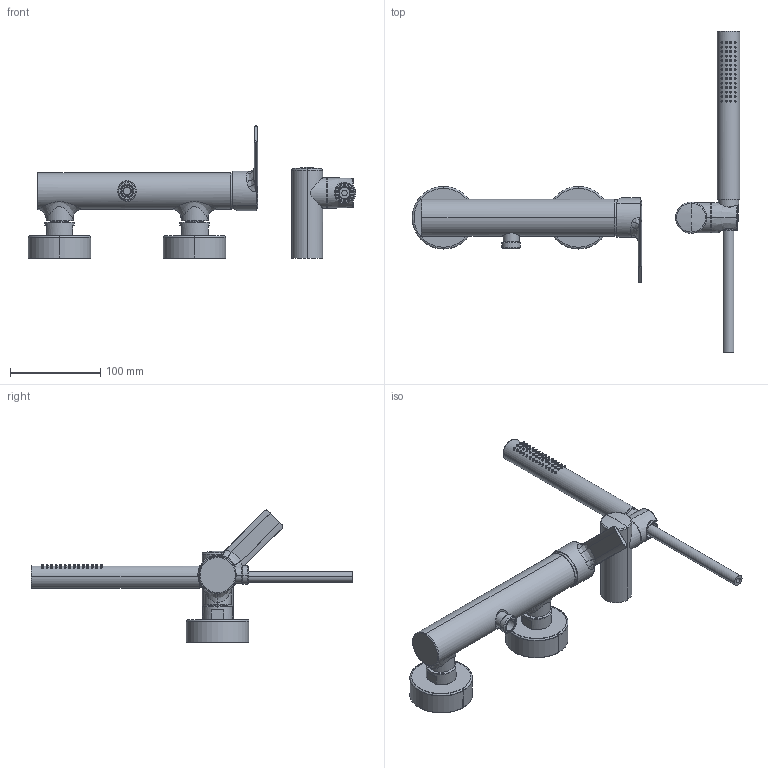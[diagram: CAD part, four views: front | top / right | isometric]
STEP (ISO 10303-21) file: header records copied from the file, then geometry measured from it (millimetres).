
FILE_DESCRIPTION(/* description */ (''),/* implementation_level */ '2;1');
FILE_NAME(/* name */ 'F3135',/* time_stamp */ '2025-04-04T15:16:41+02:00',/* author */ (''),/* organization */ (''),/* preprocessor_version */ 'ST-DEVELOPER v19.2',/* originating_system */ 'Rhino 8.1',/* authorisation */ '');
FILE_SCHEMA (('CONFIG_CONTROL_DESIGN'));
Length unit declared in the file: centimetre
Products named in the file (1): Document
Bounding box: 363.8 x 357 x 146.83 mm (x, y, z)
Volume: 183223.4 mm3; surface area: 179897 mm2
Topology: 3 solids, 4 shells, 1792 faces, 4447 edges, 2826 vertices
Faces by surface type: plane 908, cylinder 526, bspline 358
Entity records: 107453 total; most frequent: CARTESIAN_POINT 72254, ORIENTED_EDGE 8880, EDGE_CURVE 4442, DIRECTION 3636, B_SPLINE_CURVE_WITH_KNOTS 3344, VERTEX_POINT 2826, AXIS2_PLACEMENT_3D 2535, EDGE_LOOP 1991
